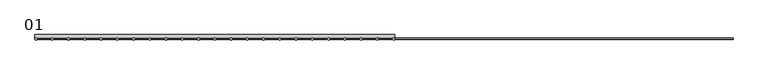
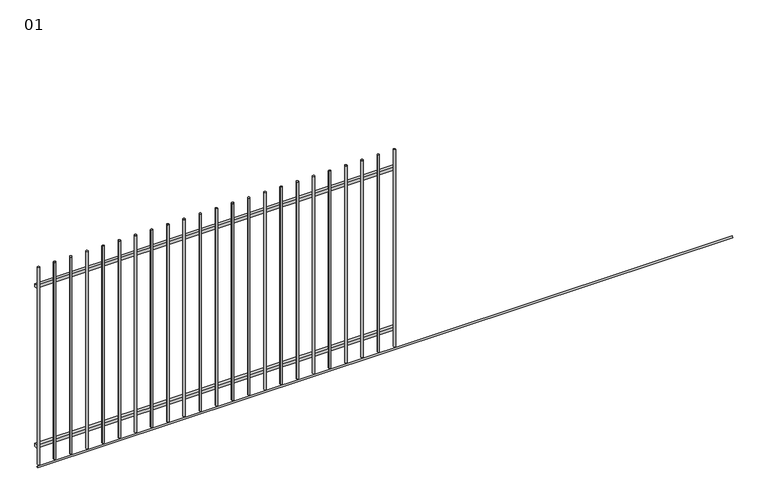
"""IFC4 building model written with IfcOpenShell, lengths in millimetres: plate geometry, pnl - PORTÃO DE CORRER 01 - 1 FOLHA : 01."""

from ifc_helpers import new_model, si_unit, point, frame, frame_2d, origin, place, context, project, spatial, polyline, circle_curve, trimmed, segment, composite_curve, outline, extrude, source, transform, mapped, element, save


def plate_01_8dd8e818(model_context):
    return source(origin(), model_context, "Body", "SweptSolid", [
        extrude(outline(composite_curve([segment(trimmed(circle_curve(frame_2d((1632.3235017, 100.0)), 10.0), [point((1622.3235017, 100.0))], [point((1642.3235017, 100.0))], False, "CARTESIAN"), True, "CONTINUOUS"), segment(trimmed(circle_curve(frame_2d((1632.3235017, 100.0)), 10.0), [point((1642.3235017, 100.0))], [point((1622.3235017, 100.0))], False, "CARTESIAN"), True, "CONTINUOUS")], self_intersect=False)), frame((0.0, 0.0, 30.0), z_axis=(0.0, 0.0, 1.0), x_axis=(1.0, 0.0, 0.0)), (0.0, 0.0, 1.0), 1970.0),
        extrude(outline(composite_curve([segment(trimmed(circle_curve(frame_2d((1479.0911515, 100.0)), 10.0), [point((1469.0911515, 100.0))], [point((1489.0911515, 100.0))], False, "CARTESIAN"), True, "CONTINUOUS"), segment(trimmed(circle_curve(frame_2d((1479.0911515, 100.0)), 10.0), [point((1489.0911515, 100.0))], [point((1469.0911515, 100.0))], False, "CARTESIAN"), True, "CONTINUOUS")], self_intersect=False)), frame((0.0, 0.0, 30.0), z_axis=(0.0, 0.0, 1.0), x_axis=(1.0, 0.0, 0.0)), (0.0, 0.0, 1.0), 1970.0),
        extrude(outline(composite_curve([segment(trimmed(circle_curve(frame_2d((1325.8588014, 100.0)), 10.0), [point((1315.8588014, 100.0))], [point((1335.8588014, 100.0))], False, "CARTESIAN"), True, "CONTINUOUS"), segment(trimmed(circle_curve(frame_2d((1325.8588014, 100.0)), 10.0), [point((1335.8588014, 100.0))], [point((1315.8588014, 100.0))], False, "CARTESIAN"), True, "CONTINUOUS")], self_intersect=False)), frame((0.0, 0.0, 30.0), z_axis=(0.0, 0.0, 1.0), x_axis=(1.0, 0.0, 0.0)), (0.0, 0.0, 1.0), 1970.0),
        extrude(outline(composite_curve([segment(trimmed(circle_curve(frame_2d((1172.6264512, 100.0)), 10.0), [point((1162.6264512, 100.0))], [point((1182.6264512, 100.0))], False, "CARTESIAN"), True, "CONTINUOUS"), segment(trimmed(circle_curve(frame_2d((1172.6264512, 100.0)), 10.0), [point((1182.6264512, 100.0))], [point((1162.6264512, 100.0))], False, "CARTESIAN"), True, "CONTINUOUS")], self_intersect=False)), frame((0.0, 0.0, 30.0), z_axis=(0.0, 0.0, 1.0), x_axis=(1.0, 0.0, 0.0)), (0.0, 0.0, 1.0), 1970.0),
        extrude(outline(composite_curve([segment(trimmed(circle_curve(frame_2d((1019.394101, 100.0)), 10.0), [point((1009.394101, 100.0))], [point((1029.394101, 100.0))], False, "CARTESIAN"), True, "CONTINUOUS"), segment(trimmed(circle_curve(frame_2d((1019.394101, 100.0)), 10.0), [point((1029.394101, 100.0))], [point((1009.394101, 100.0))], False, "CARTESIAN"), True, "CONTINUOUS")], self_intersect=False)), frame((0.0, 0.0, 30.0), z_axis=(0.0, 0.0, 1.0), x_axis=(1.0, 0.0, 0.0)), (0.0, 0.0, 1.0), 1970.0),
        extrude(outline(composite_curve([segment(trimmed(circle_curve(frame_2d((866.1617508, 100.0)), 10.0), [point((856.1617508, 100.0))], [point((876.1617508, 100.0))], False, "CARTESIAN"), True, "CONTINUOUS"), segment(trimmed(circle_curve(frame_2d((866.1617508, 100.0)), 10.0), [point((876.1617508, 100.0))], [point((856.1617508, 100.0))], False, "CARTESIAN"), True, "CONTINUOUS")], self_intersect=False)), frame((0.0, 0.0, 30.0), z_axis=(0.0, 0.0, 1.0), x_axis=(1.0, 0.0, 0.0)), (0.0, 0.0, 1.0), 1970.0),
        extrude(outline(composite_curve([segment(trimmed(circle_curve(frame_2d((712.9294007, 100.0)), 10.0), [point((702.9294007, 100.0))], [point((722.9294007, 100.0))], False, "CARTESIAN"), True, "CONTINUOUS"), segment(trimmed(circle_curve(frame_2d((712.9294007, 100.0)), 10.0), [point((722.9294007, 100.0))], [point((702.9294007, 100.0))], False, "CARTESIAN"), True, "CONTINUOUS")], self_intersect=False)), frame((0.0, 0.0, 30.0), z_axis=(0.0, 0.0, 1.0), x_axis=(1.0, 0.0, 0.0)), (0.0, 0.0, 1.0), 1970.0),
        extrude(outline(composite_curve([segment(trimmed(circle_curve(frame_2d((559.6970505, 100.0)), 10.0), [point((549.6970505, 100.0))], [point((569.6970505, 100.0))], False, "CARTESIAN"), True, "CONTINUOUS"), segment(trimmed(circle_curve(frame_2d((559.6970505, 100.0)), 10.0), [point((569.6970505, 100.0))], [point((549.6970505, 100.0))], False, "CARTESIAN"), True, "CONTINUOUS")], self_intersect=False)), frame((0.0, 0.0, 30.0), z_axis=(0.0, 0.0, 1.0), x_axis=(1.0, 0.0, 0.0)), (0.0, 0.0, 1.0), 1970.0),
        extrude(outline(composite_curve([segment(trimmed(circle_curve(frame_2d((406.4647003, 100.0)), 10.0), [point((396.4647003, 100.0))], [point((416.4647003, 100.0))], False, "CARTESIAN"), True, "CONTINUOUS"), segment(trimmed(circle_curve(frame_2d((406.4647003, 100.0)), 10.0), [point((416.4647003, 100.0))], [point((396.4647003, 100.0))], False, "CARTESIAN"), True, "CONTINUOUS")], self_intersect=False)), frame((0.0, 0.0, 30.0), z_axis=(0.0, 0.0, 1.0), x_axis=(1.0, 0.0, 0.0)), (0.0, 0.0, 1.0), 1970.0),
        extrude(outline(composite_curve([segment(trimmed(circle_curve(frame_2d((253.2323502, 100.0)), 10.0), [point((243.2323502, 100.0))], [point((263.2323502, 100.0))], False, "CARTESIAN"), True, "CONTINUOUS"), segment(trimmed(circle_curve(frame_2d((253.2323502, 100.0)), 10.0), [point((263.2323502, 100.0))], [point((243.2323502, 100.0))], False, "CARTESIAN"), True, "CONTINUOUS")], self_intersect=False)), frame((0.0, 0.0, 30.0), z_axis=(0.0, 0.0, 1.0), x_axis=(1.0, 0.0, 0.0)), (0.0, 0.0, 1.0), 1970.0),
        extrude(outline(composite_curve([segment(trimmed(circle_curve(frame_2d((100.0, 100.0)), 10.0), [point((90.0, 100.0))], [point((110.0, 100.0))], False, "CARTESIAN"), True, "CONTINUOUS"), segment(trimmed(circle_curve(frame_2d((100.0, 100.0)), 10.0), [point((110.0, 100.0))], [point((90.0, 100.0))], False, "CARTESIAN"), True, "CONTINUOUS")], self_intersect=False)), frame((0.0, 0.0, 30.0), z_axis=(0.0, 0.0, 1.0), x_axis=(1.0, 0.0, 0.0)), (0.0, 0.0, 1.0), 1970.0),
        extrude(outline(composite_curve([segment(trimmed(circle_curve(frame_2d((-53.2323502, 100.0)), 10.0), [point((-63.2323502, 100.0))], [point((-43.2323502, 100.0))], False, "CARTESIAN"), True, "CONTINUOUS"), segment(trimmed(circle_curve(frame_2d((-53.2323502, 100.0)), 10.0), [point((-43.2323502, 100.0))], [point((-63.2323502, 100.0))], False, "CARTESIAN"), True, "CONTINUOUS")], self_intersect=False)), frame((0.0, 0.0, 30.0), z_axis=(0.0, 0.0, 1.0), x_axis=(1.0, 0.0, 0.0)), (0.0, 0.0, 1.0), 1970.0),
        extrude(outline(polyline([(93.0, 0.0), (100.0, 12.1243557), (107.0, 0.0), (93.0, 0.0)])), frame((-1595.5558519, 0.0, 0.0), z_axis=(1.0, 0.0, 0.0), x_axis=(0.0, 1.0, 0.0)), (0.0, 0.0, 1.0), 6582.2234074),
        extrude(outline(composite_curve([segment(trimmed(circle_curve(frame_2d((-206.4647003, 100.0)), 10.0), [point((-216.4647003, 100.0))], [point((-196.4647003, 100.0))], False, "CARTESIAN"), True, "CONTINUOUS"), segment(trimmed(circle_curve(frame_2d((-206.4647003, 100.0)), 10.0), [point((-196.4647003, 100.0))], [point((-216.4647003, 100.0))], False, "CARTESIAN"), True, "CONTINUOUS")], self_intersect=False)), frame((0.0, 0.0, 30.0), z_axis=(0.0, 0.0, 1.0), x_axis=(1.0, 0.0, 0.0)), (0.0, 0.0, 1.0), 1970.0),
        extrude(outline(composite_curve([segment(trimmed(circle_curve(frame_2d((-359.6970505, 100.0)), 10.0), [point((-369.6970505, 100.0))], [point((-349.6970505, 100.0))], False, "CARTESIAN"), True, "CONTINUOUS"), segment(trimmed(circle_curve(frame_2d((-359.6970505, 100.0)), 10.0), [point((-349.6970505, 100.0))], [point((-369.6970505, 100.0))], False, "CARTESIAN"), True, "CONTINUOUS")], self_intersect=False)), frame((0.0, 0.0, 30.0), z_axis=(0.0, 0.0, 1.0), x_axis=(1.0, 0.0, 0.0)), (0.0, 0.0, 1.0), 1970.0),
        extrude(outline(composite_curve([segment(trimmed(circle_curve(frame_2d((-512.9294007, 100.0)), 10.0), [point((-522.9294007, 100.0))], [point((-502.9294007, 100.0))], False, "CARTESIAN"), True, "CONTINUOUS"), segment(trimmed(circle_curve(frame_2d((-512.9294007, 100.0)), 10.0), [point((-502.9294007, 100.0))], [point((-522.9294007, 100.0))], False, "CARTESIAN"), True, "CONTINUOUS")], self_intersect=False)), frame((0.0, 0.0, 30.0), z_axis=(0.0, 0.0, 1.0), x_axis=(1.0, 0.0, 0.0)), (0.0, 0.0, 1.0), 1970.0),
        extrude(outline(composite_curve([segment(trimmed(circle_curve(frame_2d((-666.1617508, 100.0)), 10.0), [point((-676.1617508, 100.0))], [point((-656.1617508, 100.0))], False, "CARTESIAN"), True, "CONTINUOUS"), segment(trimmed(circle_curve(frame_2d((-666.1617508, 100.0)), 10.0), [point((-656.1617508, 100.0))], [point((-676.1617508, 100.0))], False, "CARTESIAN"), True, "CONTINUOUS")], self_intersect=False)), frame((0.0, 0.0, 30.0), z_axis=(0.0, 0.0, 1.0), x_axis=(1.0, 0.0, 0.0)), (0.0, 0.0, 1.0), 1970.0),
        extrude(outline(composite_curve([segment(trimmed(circle_curve(frame_2d((-819.394101, 100.0)), 10.0), [point((-829.394101, 100.0))], [point((-809.394101, 100.0))], False, "CARTESIAN"), True, "CONTINUOUS"), segment(trimmed(circle_curve(frame_2d((-819.394101, 100.0)), 10.0), [point((-809.394101, 100.0))], [point((-829.394101, 100.0))], False, "CARTESIAN"), True, "CONTINUOUS")], self_intersect=False)), frame((0.0, 0.0, 30.0), z_axis=(0.0, 0.0, 1.0), x_axis=(1.0, 0.0, 0.0)), (0.0, 0.0, 1.0), 1970.0),
        extrude(outline(composite_curve([segment(trimmed(circle_curve(frame_2d((-972.6264512, 100.0)), 10.0), [point((-982.6264512, 100.0))], [point((-962.6264512, 100.0))], False, "CARTESIAN"), True, "CONTINUOUS"), segment(trimmed(circle_curve(frame_2d((-972.6264512, 100.0)), 10.0), [point((-962.6264512, 100.0))], [point((-982.6264512, 100.0))], False, "CARTESIAN"), True, "CONTINUOUS")], self_intersect=False)), frame((0.0, 0.0, 30.0), z_axis=(0.0, 0.0, 1.0), x_axis=(1.0, 0.0, 0.0)), (0.0, 0.0, 1.0), 1970.0),
        extrude(outline(composite_curve([segment(trimmed(circle_curve(frame_2d((-1125.8588014, 100.0)), 10.0), [point((-1135.8588014, 100.0))], [point((-1115.8588014, 100.0))], False, "CARTESIAN"), True, "CONTINUOUS"), segment(trimmed(circle_curve(frame_2d((-1125.8588014, 100.0)), 10.0), [point((-1115.8588014, 100.0))], [point((-1135.8588014, 100.0))], False, "CARTESIAN"), True, "CONTINUOUS")], self_intersect=False)), frame((0.0, 0.0, 30.0), z_axis=(0.0, 0.0, 1.0), x_axis=(1.0, 0.0, 0.0)), (0.0, 0.0, 1.0), 1970.0),
        extrude(outline(composite_curve([segment(trimmed(circle_curve(frame_2d((-1279.0911515, 100.0)), 10.0), [point((-1289.0911515, 100.0))], [point((-1269.0911515, 100.0))], False, "CARTESIAN"), True, "CONTINUOUS"), segment(trimmed(circle_curve(frame_2d((-1279.0911515, 100.0)), 10.0), [point((-1269.0911515, 100.0))], [point((-1289.0911515, 100.0))], False, "CARTESIAN"), True, "CONTINUOUS")], self_intersect=False)), frame((0.0, 0.0, 30.0), z_axis=(0.0, 0.0, 1.0), x_axis=(1.0, 0.0, 0.0)), (0.0, 0.0, 1.0), 1970.0),
        extrude(outline(composite_curve([segment(trimmed(circle_curve(frame_2d((-1432.3235017, 100.0)), 10.0), [point((-1442.3235017, 100.0))], [point((-1422.3235017, 100.0))], False, "CARTESIAN"), True, "CONTINUOUS"), segment(trimmed(circle_curve(frame_2d((-1432.3235017, 100.0)), 10.0), [point((-1422.3235017, 100.0))], [point((-1442.3235017, 100.0))], False, "CARTESIAN"), True, "CONTINUOUS")], self_intersect=False)), frame((0.0, 0.0, 30.0), z_axis=(0.0, 0.0, 1.0), x_axis=(1.0, 0.0, 0.0)), (0.0, 0.0, 1.0), 1970.0),
        extrude(outline(composite_curve([segment(trimmed(circle_curve(frame_2d((-1585.5558519, 100.0)), 10.0), [point((-1595.5558519, 100.0))], [point((-1575.5558519, 100.0))], False, "CARTESIAN"), True, "CONTINUOUS"), segment(trimmed(circle_curve(frame_2d((-1585.5558519, 100.0)), 10.0), [point((-1575.5558519, 100.0))], [point((-1595.5558519, 100.0))], False, "CARTESIAN"), True, "CONTINUOUS")], self_intersect=False)), frame((0.0, 0.0, 30.0), z_axis=(0.0, 0.0, 1.0), x_axis=(1.0, 0.0, 0.0)), (0.0, 0.0, 1.0), 1970.0),
        extrude(outline(composite_curve([segment(trimmed(circle_curve(frame_2d((1785.5558519, 100.0)), 10.0), [point((1775.5558519, 100.0))], [point((1795.5558519, 100.0))], False, "CARTESIAN"), True, "CONTINUOUS"), segment(trimmed(circle_curve(frame_2d((1785.5558519, 100.0)), 10.0), [point((1795.5558519, 100.0))], [point((1775.5558519, 100.0))], False, "CARTESIAN"), True, "CONTINUOUS")], self_intersect=False)), frame((0.0, 0.0, 30.0), z_axis=(0.0, 0.0, 1.0), x_axis=(1.0, 0.0, 0.0)), (0.0, 0.0, 1.0), 1970.0),
        extrude(outline(polyline([(-1595.5558519, 140.0), (1795.5558519, 140.0), (1795.5558519, 110.0), (-1595.5558519, 110.0), (-1595.5558519, 140.0)])), frame((0.0, 0.0, 185.0), z_axis=(0.0, 0.0, 1.0), x_axis=(1.0, 0.0, 0.0)), (0.0, 0.0, 1.0), 30.0),
        extrude(outline(polyline([(-1595.5558519, 140.0), (1795.5558519, 140.0), (1795.5558519, 110.0), (-1595.5558519, 110.0), (-1595.5558519, 140.0)])), frame((0.0, 0.0, 1785.0), z_axis=(0.0, 0.0, 1.0), x_axis=(1.0, 0.0, 0.0)), (0.0, 0.0, 1.0), 30.0),
    ])


if __name__ == "__main__":
    model = new_model("IFC4")
    model_context = context("Model", 3, world=origin())
    ifc_project = project(units=[si_unit("LENGTHUNIT", "METRE", prefix="MILLI")], contexts=[model_context])
    site = spatial("IfcSite", under=ifc_project)
    building = spatial("IfcBuilding", under=site)
    placement = place(None, origin())
    plate_01_shape = plate_01_8dd8e818(model_context)
    element("IfcPlate", 1, ObjectType="pnl - PORTÃO DE CORRER 01 - 1 FOLHA : 01", at=placement, inside=building, context=model_context, shape_type="MappedRepresentation", body=[
        mapped(plate_01_shape, transform((0.0, 0.0, 0.0), x_axis=(1.0, 0.0, 0.0), y_axis=(0.0, 1.0, 0.0), z_axis=(0.0, 0.0, 1.0))),
    ])
    save(model, "model.ifc")
